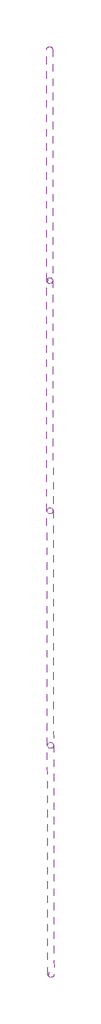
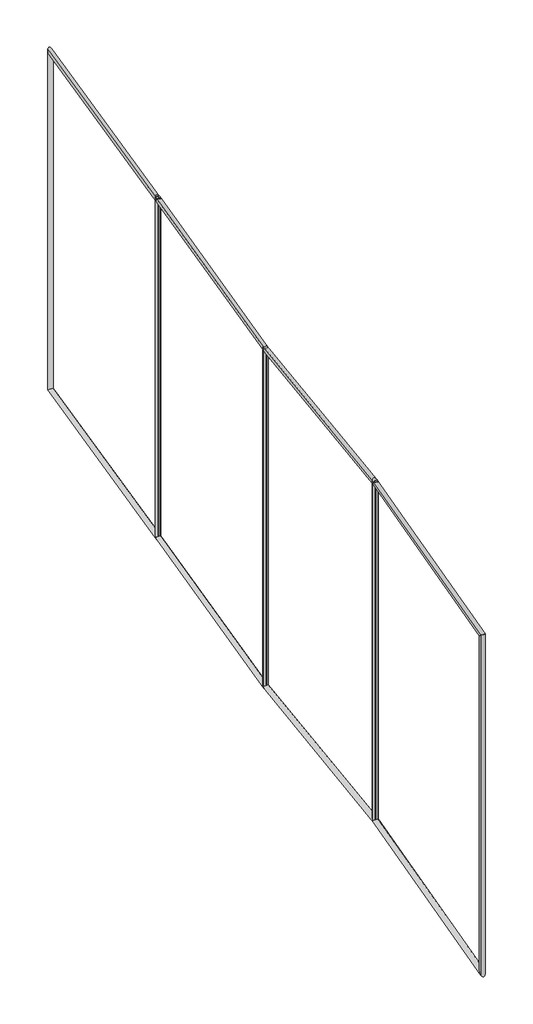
# One storey: 4 proxies.
"""IFC4 building model written with IfcOpenShell, lengths in millimetres."""

from ifc_helpers import new_model, si_unit, origin, place, context, project, spatial, transform, mapped, element, save
from components import generic_models_08b8eeda, generic_models_fc01901a, generic_models_5849164f, generic_models_f73f6350

model = new_model("IFC4")

# Units and contexts
model_context = context("Model", 3, world=origin())
ifc_project = project(units=[si_unit("LENGTHUNIT", "METRE", prefix="MILLI")], contexts=[model_context])

# Site, building, storey
site = spatial("IfcSite", under=ifc_project)
building = spatial("IfcBuilding", under=site)
storey = spatial("IfcBuildingStorey", under=building, Name="Nível 4", Elevation=12000.0)

# Proxies
placement = place(None, origin())
generic_models_shape = generic_models_08b8eeda(model_context)
element("IfcBuildingElementProxy", 1, Name="Família5 : Família5", ObjectType="Família5 : Família5", at=placement, inside=storey, context=model_context, shape_type="MappedRepresentation", body=[
    mapped(generic_models_shape, transform((-2171.594806, 9466.0310026, 13850.5769822), x_axis=(0.7407336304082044, 0.6501340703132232, 0.16923173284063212), y_axis=(-0.6717807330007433, 0.7149766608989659, 0.19369827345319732), z_axis=(0.004933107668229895, -0.25716544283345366, 0.9663547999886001))),
])
generic_models_2_shape = generic_models_fc01901a(model_context)
element("IfcBuildingElementProxy", 2, Name="Família5 : Família5", ObjectType="Família5 : Família5", at=placement, inside=storey, context=model_context, shape_type="MappedRepresentation", body=[
    mapped(generic_models_2_shape, transform((-2177.9650453, 12519.7620919, 14412.7157621), x_axis=(0.7407131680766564, 0.665568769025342, 0.0914451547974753), y_axis=(-0.6718066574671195, 0.7329013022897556, 0.1073848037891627), z_axis=(0.004451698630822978, -0.14097480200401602, 0.9900031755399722))),
])
generic_models_3_shape = generic_models_5849164f(model_context)
element("IfcBuildingElementProxy", 3, Name="Família5 : Família5", ObjectType="Família5 : Família5", at=placement, inside=storey, context=model_context, shape_type="MappedRepresentation", body=[
    mapped(generic_models_3_shape, transform((-2373.9153289, 15560.2335735, 15049.1017244), x_axis=(-0.7428316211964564, 0.6495314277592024, 0.16220390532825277), y_axis=(0.6694625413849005, 0.7223441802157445, 0.17331702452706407), z_axis=(-0.004592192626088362, 0.23733480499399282, -0.9714170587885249))),
])
generic_models_4_shape = generic_models_f73f6350(model_context)
element("IfcBuildingElementProxy", 4, Name="Família5 : Família5", ObjectType="Família5 : Família5", at=placement, inside=storey, context=model_context, shape_type="MappedRepresentation", body=[
    mapped(generic_models_4_shape, transform((-2376.395976, 18587.600392, 15761.2968808), x_axis=(-0.7425244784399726, 0.6519534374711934, 0.1536688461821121), y_axis=(0.6698044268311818, 0.7242138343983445, 0.16394008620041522), z_axis=(-0.0044078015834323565, 0.22465760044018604, -0.9744277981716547))),
])

save(model, "model.ifc")
